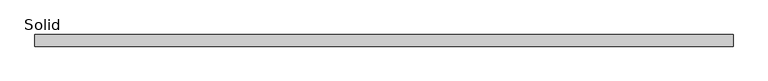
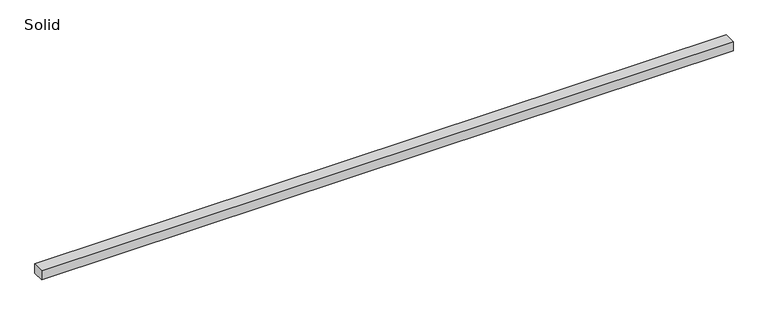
"""IFC4 building model written with IfcOpenShell, lengths in millimetres: sanitary terminal geometry, ZZZ_do not use_PF_ST_UN_grating for ShowerDrain S_ACO : Solid."""

from ifc_helpers import new_model, si_unit, frame, origin, place, context, project, spatial, polyline, outline, extrude, source, transform, mapped, element, save


def solid_fc9fc66c(model_context):
    return source(origin(), model_context, "Body", "SweptSolid", [
        extrude(outline(polyline([(600.0, 10.0), (600.0, -10.0), (-600.0, -10.0), (-600.0, 10.0), (600.0, 10.0)])), frame((0.0, 0.0, -17.0), z_axis=(0.0, 0.0, 1.0), x_axis=(1.0, 0.0, 0.0)), (0.0, 0.0, 1.0), 17.0),
    ])


if __name__ == "__main__":
    model = new_model("IFC4")
    model_context = context("Model", 3, world=origin())
    ifc_project = project(units=[si_unit("LENGTHUNIT", "METRE", prefix="MILLI")], contexts=[model_context])
    site = spatial("IfcSite", under=ifc_project)
    building = spatial("IfcBuilding", under=site)
    placement = place(None, origin())
    solid_shape = solid_fc9fc66c(model_context)
    element("IfcSanitaryTerminal", 1, ObjectType="ZZZ_do not use_PF_ST_UN_grating for ShowerDrain S_ACO : Solid", at=placement, inside=building, context=model_context, shape_type="MappedRepresentation", body=[
        mapped(solid_shape, transform((0.0, 0.0, 0.0), x_axis=(1.0, 0.0, 0.0), y_axis=(0.0, 1.0, 0.0), z_axis=(0.0, 0.0, 1.0))),
    ])
    save(model, "model.ifc")
